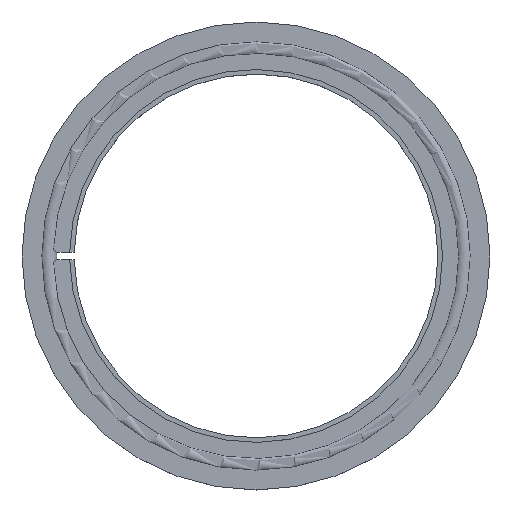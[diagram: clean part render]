
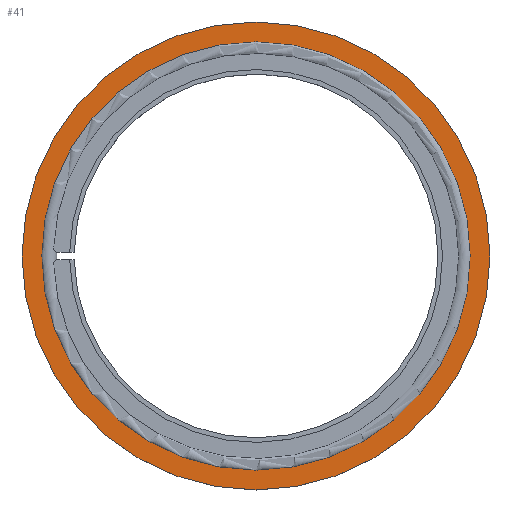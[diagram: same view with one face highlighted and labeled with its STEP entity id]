
A CAD part, top view. The second image highlights one B-rep face of the part: STEP entity #41.
In plain terms, the highlighted planar face has unit normal (0, 0, 1).
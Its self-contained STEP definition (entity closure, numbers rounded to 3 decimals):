
#41 = ADVANCED_FACE( '', ( #92, #93 ), #94, .T. );
#92 = FACE_BOUND( '', #155, .T. );
#93 = FACE_OUTER_BOUND( '', #156, .T. );
#94 = PLANE( '', #157 );
#155 = EDGE_LOOP( '', ( #212 ) );
#156 = EDGE_LOOP( '', ( #213 ) );
#157 = AXIS2_PLACEMENT_3D( '', #214, #215, #216 );
#212 = ORIENTED_EDGE( '', *, *, #360, .T. );
#213 = ORIENTED_EDGE( '', *, *, #361, .F. );
#214 = CARTESIAN_POINT( '', ( -64., 0., 5.95 ) );
#215 = DIRECTION( '', ( 0., 0., 1. ) );
#216 = DIRECTION( '', ( 1., 0., 0. ) );
#360 = EDGE_CURVE( '', #417, #417, #418, .F. );
#361 = EDGE_CURVE( '', #419, #419, #420, .T. );
#417 = VERTEX_POINT( '', #502 );
#418 = CIRCLE( '', #503, 58.564 );
#419 = VERTEX_POINT( '', #504 );
#420 = CIRCLE( '', #505, 64. );
#502 = CARTESIAN_POINT( '', ( 58.564, 0., 5.95 ) );
#503 = AXIS2_PLACEMENT_3D( '', #653, #654, #655 );
#504 = CARTESIAN_POINT( '', ( -64., 0., 5.95 ) );
#505 = AXIS2_PLACEMENT_3D( '', #656, #657, #658 );
#653 = CARTESIAN_POINT( '', ( 0., 0., 5.95 ) );
#654 = DIRECTION( '', ( 0., 0., 1. ) );
#655 = DIRECTION( '', ( 1., 0., 0. ) );
#656 = CARTESIAN_POINT( '', ( 0., 0., 5.95 ) );
#657 = DIRECTION( '', ( 0., 0., -1. ) );
#658 = DIRECTION( '', ( -1., 0., 0. ) );
